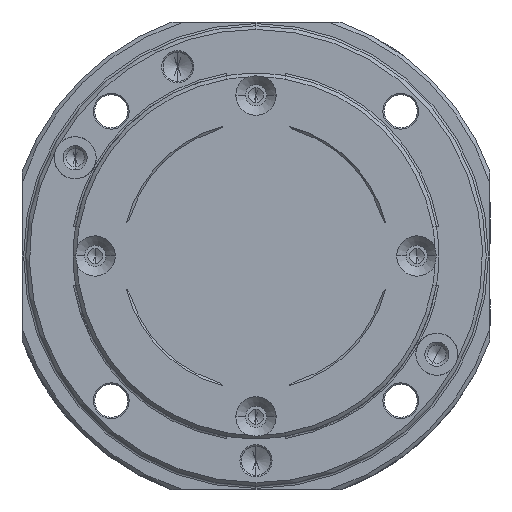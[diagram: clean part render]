
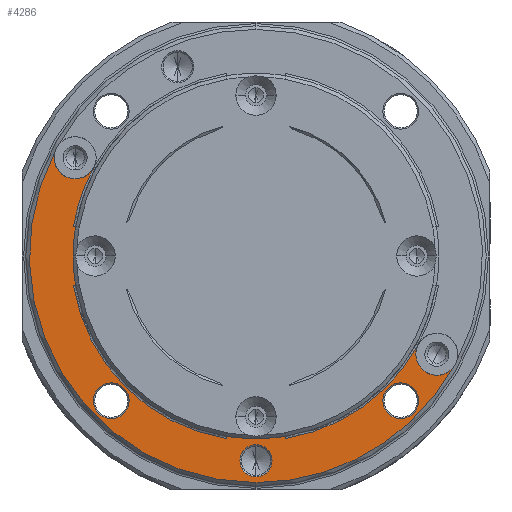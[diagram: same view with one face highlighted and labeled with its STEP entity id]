
A CAD part, front view. The second image highlights one B-rep face of the part: STEP entity #4286.
In plain terms, the highlighted planar face has unit normal (0, -1, 0).
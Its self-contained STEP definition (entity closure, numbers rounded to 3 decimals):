
#2368=FACE_BOUND('',#7282,.T.);
#2369=FACE_BOUND('',#7283,.T.);
#2370=FACE_BOUND('',#7284,.T.);
#2371=FACE_BOUND('',#7285,.T.);
#2705=PLANE('',#26167);
#4286=ADVANCED_FACE('',(#2368,#2369,#2370,#2371),#2705,.T.);
#7282=EDGE_LOOP('',(#15381,#15382));
#7283=EDGE_LOOP('',(#15383,#15384));
#7284=EDGE_LOOP('',(#15385,#15386));
#7285=EDGE_LOOP('',(#15387,#15388,#15389,#15390,#15391,#15392,#15393,#15394,
#15395,#15396,#15397,#15398,#15399,#15400,#15401));
#8013=CIRCLE('',#25023,25.);
#8019=CIRCLE('',#25032,25.);
#8260=CIRCLE('',#25508,25.28);
#8285=CIRCLE('',#25543,2.45);
#8287=CIRCLE('',#25546,2.2);
#8289=CIRCLE('',#25549,2.45);
#8295=CIRCLE('',#25561,2.875);
#8301=CIRCLE('',#25569,2.875);
#8461=CIRCLE('',#25848,30.985);
#8503=CIRCLE('',#25923,25.28);
#8510=CIRCLE('',#25939,25.28);
#8523=CIRCLE('',#25966,30.985);
#8573=CIRCLE('',#26110,2.875);
#8575=CIRCLE('',#26113,2.875);
#8580=CIRCLE('',#26124,2.45);
#8581=CIRCLE('',#26126,2.2);
#8582=CIRCLE('',#26128,2.45);
#15381=ORIENTED_EDGE('',*,*,#21248,.T.);
#15382=ORIENTED_EDGE('',*,*,#20583,.T.);
#15383=ORIENTED_EDGE('',*,*,#21249,.T.);
#15384=ORIENTED_EDGE('',*,*,#20579,.T.);
#15385=ORIENTED_EDGE('',*,*,#21247,.T.);
#15386=ORIENTED_EDGE('',*,*,#20587,.T.);
#15387=ORIENTED_EDGE('',*,*,#19728,.F.);
#15388=ORIENTED_EDGE('',*,*,#21260,.T.);
#15389=ORIENTED_EDGE('',*,*,#21127,.T.);
#15390=ORIENTED_EDGE('',*,*,#20614,.F.);
#15391=ORIENTED_EDGE('',*,*,#21240,.F.);
#15392=ORIENTED_EDGE('',*,*,#21030,.T.);
#15393=ORIENTED_EDGE('',*,*,#21153,.T.);
#15394=ORIENTED_EDGE('',*,*,#20605,.F.);
#15395=ORIENTED_EDGE('',*,*,#21242,.F.);
#15396=ORIENTED_EDGE('',*,*,#20540,.T.);
#15397=ORIENTED_EDGE('',*,*,#20074,.T.);
#15398=ORIENTED_EDGE('',*,*,#19715,.F.);
#15399=ORIENTED_EDGE('',*,*,#21261,.T.);
#15400=ORIENTED_EDGE('',*,*,#21118,.T.);
#15401=ORIENTED_EDGE('',*,*,#20068,.T.);
#17117=VERTEX_POINT('',#39918);
#17120=VERTEX_POINT('',#39924);
#17126=VERTEX_POINT('',#39943);
#17129=VERTEX_POINT('',#39949);
#17350=VERTEX_POINT('',#41923);
#17353=VERTEX_POINT('',#41971);
#17679=VERTEX_POINT('',#48371);
#17682=VERTEX_POINT('',#48395);
#17715=VERTEX_POINT('',#48503);
#17717=VERTEX_POINT('',#48507);
#17719=VERTEX_POINT('',#48512);
#17721=VERTEX_POINT('',#48516);
#17723=VERTEX_POINT('',#48521);
#17725=VERTEX_POINT('',#48525);
#17739=VERTEX_POINT('',#48563);
#17740=VERTEX_POINT('',#48565);
#17747=VERTEX_POINT('',#48588);
#18034=VERTEX_POINT('',#50586);
#18036=VERTEX_POINT('',#50589);
#18064=VERTEX_POINT('',#50945);
#18066=VERTEX_POINT('',#50989);
#19715=EDGE_CURVE('',#17120,#17117,#8013,.T.);
#19728=EDGE_CURVE('',#17129,#17126,#8019,.T.);
#20068=EDGE_CURVE('',#17350,#17126,#22273,.T.);
#20074=EDGE_CURVE('',#17353,#17117,#22276,.T.);
#20540=EDGE_CURVE('',#17682,#17353,#8260,.T.);
#20579=EDGE_CURVE('',#17715,#17717,#8285,.T.);
#20583=EDGE_CURVE('',#17719,#17721,#8287,.T.);
#20587=EDGE_CURVE('',#17723,#17725,#8289,.T.);
#20605=EDGE_CURVE('',#17739,#17740,#8295,.T.);
#20614=EDGE_CURVE('',#17747,#17679,#8301,.T.);
#21030=EDGE_CURVE('',#18036,#18034,#8461,.T.);
#21118=EDGE_CURVE('',#18064,#17350,#8503,.T.);
#21127=EDGE_CURVE('',#18066,#17679,#8510,.T.);
#21153=EDGE_CURVE('',#18034,#17740,#8523,.T.);
#21240=EDGE_CURVE('',#18036,#17747,#8573,.T.);
#21242=EDGE_CURVE('',#17682,#17739,#8575,.T.);
#21247=EDGE_CURVE('',#17725,#17723,#8580,.T.);
#21248=EDGE_CURVE('',#17721,#17719,#8581,.T.);
#21249=EDGE_CURVE('',#17717,#17715,#8582,.T.);
#21260=EDGE_CURVE('',#17129,#18066,#22748,.T.);
#21261=EDGE_CURVE('',#17120,#18064,#22749,.T.);
#22273=LINE('',#41922,#23469);
#22276=LINE('',#41970,#23472);
#22748=LINE('',#51767,#23944);
#22749=LINE('',#51768,#23945);
#23469=VECTOR('',#29881,1.);
#23472=VECTOR('',#29890,1.);
#23944=VECTOR('',#31952,1.);
#23945=VECTOR('',#31953,1.);
#25023=AXIS2_PLACEMENT_3D('',#39925,#29122,#29123);
#25032=AXIS2_PLACEMENT_3D('',#39950,#29147,#29148);
#25508=AXIS2_PLACEMENT_3D('',#48394,#30403,#30404);
#25543=AXIS2_PLACEMENT_3D('',#48508,#30485,#30486);
#25546=AXIS2_PLACEMENT_3D('',#48517,#30493,#30494);
#25549=AXIS2_PLACEMENT_3D('',#48526,#30501,#30502);
#25561=AXIS2_PLACEMENT_3D('',#48564,#30537,#30538);
#25569=AXIS2_PLACEMENT_3D('',#48589,#30555,#30556);
#25848=AXIS2_PLACEMENT_3D('',#50588,#31273,#31274);
#25923=AXIS2_PLACEMENT_3D('',#50944,#31449,#31450);
#25939=AXIS2_PLACEMENT_3D('',#50988,#31481,#31482);
#25966=AXIS2_PLACEMENT_3D('',#51219,#31535,#31536);
#26110=AXIS2_PLACEMENT_3D('',#51704,#31832,#31833);
#26113=AXIS2_PLACEMENT_3D('',#51707,#31838,#31839);
#26124=AXIS2_PLACEMENT_3D('',#51718,#31860,#31861);
#26126=AXIS2_PLACEMENT_3D('',#51720,#31864,#31865);
#26128=AXIS2_PLACEMENT_3D('',#51722,#31868,#31869);
#26167=AXIS2_PLACEMENT_3D('',#51769,#31954,#31955);
#29122=DIRECTION('',(0.,-1.,0.));
#29123=DIRECTION('',(-1.,0.,0.));
#29147=DIRECTION('',(0.,-1.,0.));
#29148=DIRECTION('',(-1.,0.,0.));
#29881=DIRECTION('',(1.,0.,0.));
#29890=DIRECTION('',(0.,0.,1.));
#30403=DIRECTION('',(0.,1.,0.));
#30404=DIRECTION('',(0.,0.,-1.));
#30485=DIRECTION('',(0.,1.,0.));
#30486=DIRECTION('',(0.,0.,-1.));
#30493=DIRECTION('',(0.,1.,0.));
#30494=DIRECTION('',(0.,0.,-1.));
#30501=DIRECTION('',(0.,1.,0.));
#30502=DIRECTION('',(0.,0.,-1.));
#30537=DIRECTION('',(0.,-1.,0.));
#30538=DIRECTION('',(0.,0.,-1.));
#30555=DIRECTION('',(0.,-1.,0.));
#30556=DIRECTION('',(0.,0.,-1.));
#31273=DIRECTION('',(0.,-1.,0.));
#31274=DIRECTION('',(0.,0.,-1.));
#31449=DIRECTION('',(0.,1.,0.));
#31450=DIRECTION('',(0.,0.,-1.));
#31481=DIRECTION('',(0.,1.,0.));
#31482=DIRECTION('',(0.,0.,-1.));
#31535=DIRECTION('',(0.,-1.,0.));
#31536=DIRECTION('',(0.,0.,-1.));
#31832=DIRECTION('',(0.,-1.,0.));
#31833=DIRECTION('',(0.,0.,-1.));
#31838=DIRECTION('',(0.,-1.,0.));
#31839=DIRECTION('',(0.,0.,-1.));
#31860=DIRECTION('',(0.,1.,0.));
#31861=DIRECTION('',(0.,0.,-1.));
#31864=DIRECTION('',(0.,1.,0.));
#31865=DIRECTION('',(0.,0.,-1.));
#31868=DIRECTION('',(0.,1.,0.));
#31869=DIRECTION('',(0.,0.,-1.));
#31952=DIRECTION('',(-1.,0.,0.));
#31953=DIRECTION('',(0.,0.,-1.));
#31954=DIRECTION('',(0.,-1.,0.));
#31955=DIRECTION('',(0.,0.,1.));
#39918=CARTESIAN_POINT('',(-3.125,-0.135,-24.678));
#39924=CARTESIAN_POINT('',(-11.125,-0.135,-24.678));
#39925=CARTESIAN_POINT('',(-7.125,-0.135,0.));
#39943=CARTESIAN_POINT('',(-31.803,-0.135,-4.));
#39949=CARTESIAN_POINT('',(-31.803,-0.135,4.));
#39950=CARTESIAN_POINT('',(-7.125,-0.135,0.));
#41922=CARTESIAN_POINT('',(-35.678,-0.135,-4.));
#41923=CARTESIAN_POINT('',(-32.087,-0.135,-4.));
#41970=CARTESIAN_POINT('',(-3.125,-0.135,-30.258));
#41971=CARTESIAN_POINT('',(-3.125,-0.135,-24.962));
#48371=CARTESIAN_POINT('',(-29.418,-0.135,11.921));
#48394=CARTESIAN_POINT('',(-7.125,-0.135,0.));
#48395=CARTESIAN_POINT('',(15.014,-0.135,-12.203));
#48503=CARTESIAN_POINT('',(12.674,-0.135,-17.349));
#48507=CARTESIAN_POINT('',(12.674,-0.135,-22.249));
#48508=CARTESIAN_POINT('',(12.674,-0.135,-19.799));
#48512=CARTESIAN_POINT('',(-7.125,-0.135,-25.8));
#48516=CARTESIAN_POINT('',(-7.125,-0.135,-30.2));
#48517=CARTESIAN_POINT('',(-7.125,-0.135,-28.));
#48521=CARTESIAN_POINT('',(-26.924,-0.135,-17.349));
#48525=CARTESIAN_POINT('',(-26.924,-0.135,-22.249));
#48526=CARTESIAN_POINT('',(-26.924,-0.135,-19.799));
#48563=CARTESIAN_POINT('',(17.613,-0.135,-16.307));
#48564=CARTESIAN_POINT('',(17.613,-0.135,-13.432));
#48565=CARTESIAN_POINT('',(19.862,-0.135,-15.223));
#48588=CARTESIAN_POINT('',(-31.864,-0.135,10.557));
#48589=CARTESIAN_POINT('',(-31.864,-0.135,13.432));
#50586=CARTESIAN_POINT('',(-7.125,-0.135,-30.985));
#50588=CARTESIAN_POINT('',(-7.125,-0.135,0.));
#50589=CARTESIAN_POINT('',(-34.591,-0.135,14.342));
#50944=CARTESIAN_POINT('',(-7.125,-0.135,0.));
#50945=CARTESIAN_POINT('',(-11.125,-0.135,-24.962));
#50988=CARTESIAN_POINT('',(-7.125,-0.135,0.));
#50989=CARTESIAN_POINT('',(-32.087,-0.135,4.));
#51219=CARTESIAN_POINT('',(-7.125,-0.135,0.));
#51704=CARTESIAN_POINT('',(-31.864,-0.135,13.432));
#51707=CARTESIAN_POINT('',(17.613,-0.135,-13.432));
#51718=CARTESIAN_POINT('',(-26.924,-0.135,-19.799));
#51720=CARTESIAN_POINT('',(-7.125,-0.135,-28.));
#51722=CARTESIAN_POINT('',(12.674,-0.135,-19.799));
#51767=CARTESIAN_POINT('',(-35.678,-0.135,4.));
#51768=CARTESIAN_POINT('',(-11.125,-0.135,-30.258));
#51769=CARTESIAN_POINT('',(24.36,-0.135,0.));
